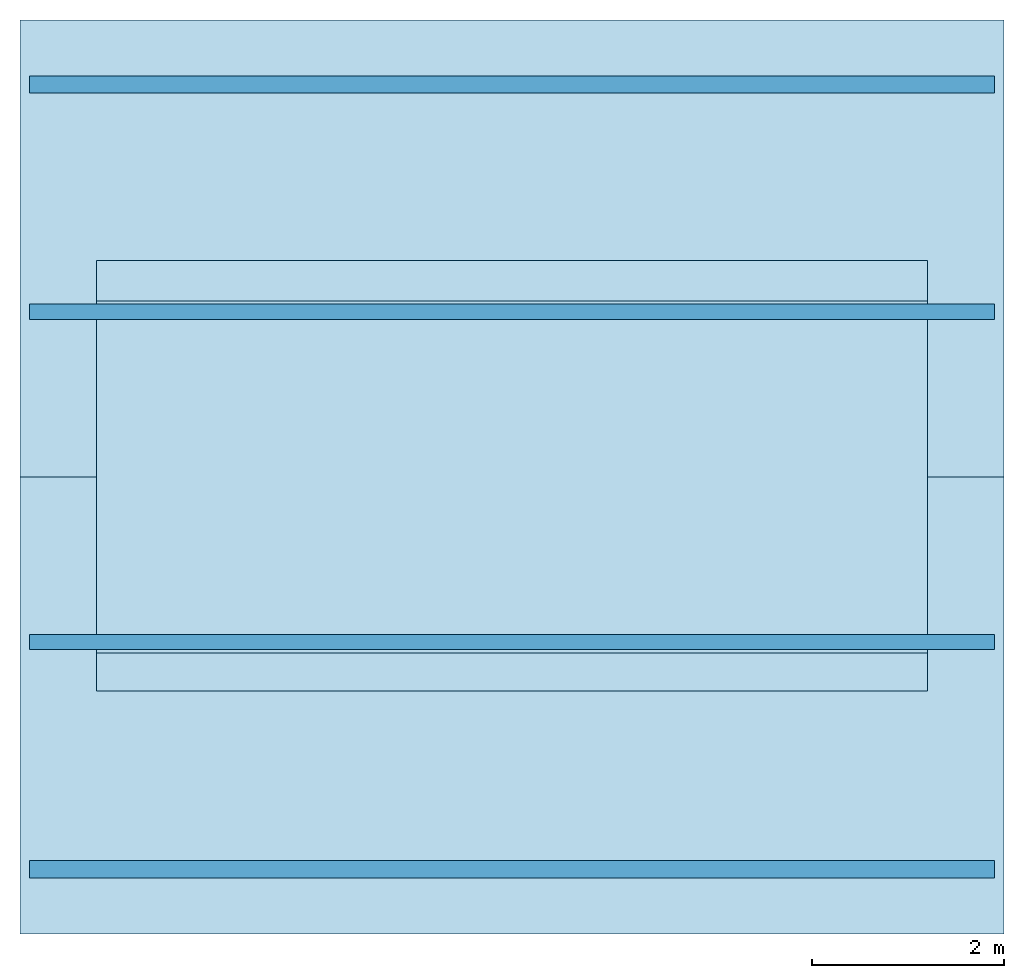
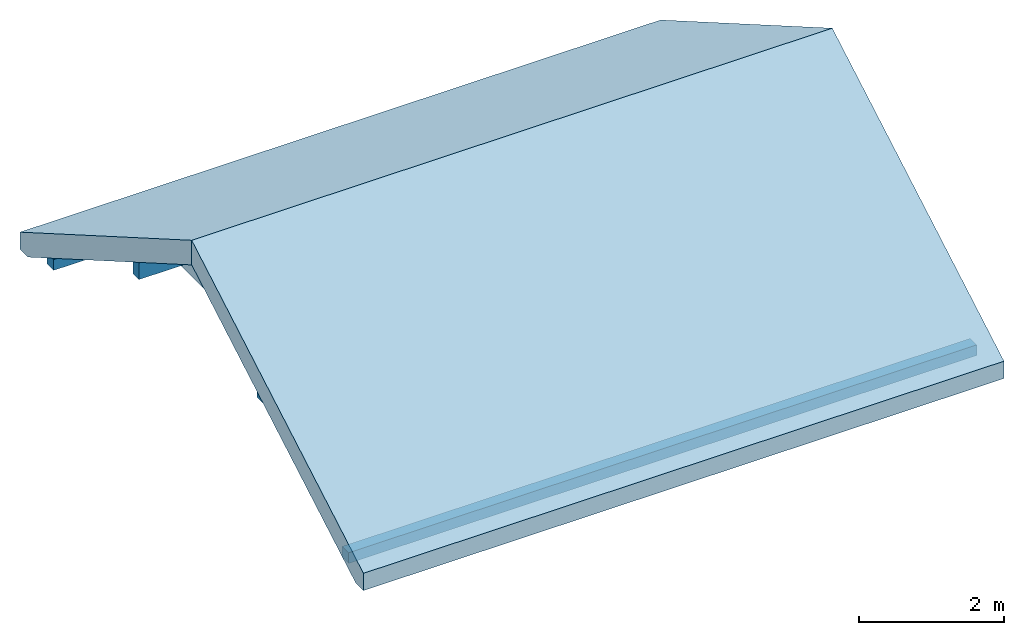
# One storey: 4 beams, 3 slabs.
"""IFC2X3 building model written with IfcOpenShell, lengths in millimetres."""

from ifc_helpers import new_model, entity, si_unit, converted_unit, derived_unit, money_unit, direction, frame, origin_with_axes, place, context, subcontext, project, spatial, faceted_brep, material, material_list, type_object, element, save


model = new_model("IFC2X3")

# Units and contexts
model_context = context("Model", 3, precision=0.01, world=origin_with_axes(), true_north=direction((0.0, 1.0)))
body_context = subcontext(model_context, "Body", "Model", "MODEL_VIEW")
ifc_project = project(units=[si_unit("LENGTHUNIT", "METRE", prefix="MILLI"), si_unit("AREAUNIT", "SQUARE_METRE"), si_unit("VOLUMEUNIT", "CUBIC_METRE"), converted_unit("PLANEANGLEUNIT", "DEGREE", entity("IfcPlaneAngleMeasure", 0.0174532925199), si_unit("PLANEANGLEUNIT", "RADIAN"), dimensions=[0, 0, 0, 0, 0, 0, 0]), si_unit("SOLIDANGLEUNIT", "STERADIAN"), money_unit("USD"), converted_unit("TIMEUNIT", "Year", entity("IfcTimeMeasure", 31556926.0), si_unit("TIMEUNIT", "SECOND"), dimensions=[0, 0, 1, 0, 0, 0, 0]), si_unit("MASSUNIT", "GRAM", prefix="KILO"), si_unit("THERMODYNAMICTEMPERATUREUNIT", "DEGREE_CELSIUS"), si_unit("LUMINOUSINTENSITYUNIT", "LUMEN"), si_unit("ENERGYUNIT", "JOULE", prefix="MEGA"), derived_unit("THERMALCONDUCTANCEUNIT", [(si_unit("POWERUNIT", "WATT"), 1), (si_unit("LENGTHUNIT", "METRE"), -1), (si_unit("THERMODYNAMICTEMPERATUREUNIT", "KELVIN"), -1)]), derived_unit("SPECIFICHEATCAPACITYUNIT", [(si_unit("ENERGYUNIT", "JOULE"), 1), (si_unit("MASSUNIT", "GRAM", prefix="KILO"), -1), (si_unit("THERMODYNAMICTEMPERATUREUNIT", "KELVIN"), -1)]), derived_unit("MASSDENSITYUNIT", [(si_unit("MASSUNIT", "GRAM", prefix="KILO"), 1), (si_unit("VOLUMEUNIT", "CUBIC_METRE"), -1)])], contexts=[model_context])

# Site, building, storey
site_placement = place(None, origin_with_axes())
site = spatial("IfcSite", under=ifc_project, at=site_placement, Name="Lokalizacja", CompositionType="ELEMENT")
building_placement = place(site_placement, origin_with_axes())
building = spatial("IfcBuilding", under=site, at=building_placement, Name="Budynek", CompositionType="ELEMENT")
storey_placement = place(building_placement, frame((0.0, 0.0, 5726.0), z_axis=(0.0, 0.0, 1.0), x_axis=(1.0, 0.0, 0.0)))
storey = spatial("IfcBuildingStorey", under=building, at=storey_placement, Name="DACH", CompositionType="ELEMENT", Elevation=5726.0)

# Beams
ifc_material_1 = material(Name="Drewno konstrukcyjne_elementy_konstrukcyjne")
beam_type_1 = type_object("IfcBeamType", Name="Drewno konstrukcyjne_elementy_konstrukcyjne 180 x 180", PredefinedType="NOTDEFINED")
beam_1_placement = place(storey_placement, frame((-695.0, 115.000000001, -1310.68246767), z_axis=(0.0, 0.0, 1.0), x_axis=(0.0, -1.0, 0.0)))
element("IfcBeam", 1, at=beam_1_placement, inside=storey, type_object=beam_type_1, material=ifc_material_1, Name="Platew_stopowa1", context=body_context, shape_type="Brep", body=[
    faceted_brep([(-90.0, 0.0, -180.0), (-90.0, 10030.0, -180.0), (90.0, 10030.0, -180.0), (90.0, 0.0, -180.0), (-90.0, 0.0, 0.0), (-90.0, 10030.0, 0.0), (90.0, 10030.0, 0.0), (90.0, 0.0, 0.0)], [[[0, 1, 2, 3]], [[4, 5, 1, 0]], [[2, 1, 5, 6]], [[3, 2, 6, 7]], [[4, 0, 3, 7]], [[7, 6, 5, 4]]]),
])
beam_2_placement = place(storey_placement, frame((-695.0, -8045.00031537, -1310.68246767), z_axis=(0.0, 0.0, 1.0), x_axis=(0.0, -1.0, 0.0)))
element("IfcBeam", 2, at=beam_2_placement, inside=storey, type_object=beam_type_1, material=ifc_material_1, Name="Platew_stopowa1", context=body_context, shape_type="Brep", body=[
    faceted_brep([(90.0, 0.0, 0.0), (90.0, 10030.0, 0.0), (-90.0, 10030.0, 0.0), (-90.0, 0.0, 0.0), (90.0, 0.0, -180.0), (90.0, 10030.0, -180.0), (-90.0, 10030.0, -180.0), (-90.0, 0.0, -180.0)], [[[0, 1, 2, 3]], [[4, 5, 1, 0]], [[2, 1, 5, 6]], [[3, 2, 6, 7]], [[4, 0, 3, 7]], [[7, 6, 5, 4]]]),
])
beam_type_2 = type_object("IfcBeamType", Name="Drewno konstrukcyjne_elementy_konstrukcyjne 160 x 280", PredefinedType="NOTDEFINED")
beam_3_placement = place(storey_placement, frame((-695.0, -5681.00236524, 60.0000000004), z_axis=(0.0, 0.0, 1.0), x_axis=(0.0, -1.0, 0.0)))
element("IfcBeam", 3, at=beam_3_placement, inside=storey, type_object=beam_type_2, material=ifc_material_1, Name="Platew2", context=body_context, shape_type="Brep", body=[
    faceted_brep([(80.0, 0.0, 0.0), (80.0, 10030.0, 0.0), (-80.0, 10030.0, 0.0), (-80.0, 0.0, 0.0), (80.0, 0.0, -280.0), (80.0, 10030.0, -280.0), (-80.0, 10030.0, -280.0), (-80.0, 0.0, -280.0)], [[[0, 1, 2, 3]], [[4, 5, 1, 0]], [[2, 1, 5, 6]], [[3, 2, 6, 7]], [[4, 0, 3, 7]], [[7, 6, 5, 4]]]),
])
beam_4_placement = place(storey_placement, frame((-695.0, -2249.00015984, 60.0000000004), z_axis=(0.0, 0.0, 1.0), x_axis=(0.0, -1.0, 0.0)))
element("IfcBeam", 4, at=beam_4_placement, inside=storey, type_object=beam_type_2, material=ifc_material_1, Name="Platew2", context=body_context, shape_type="Brep", body=[
    faceted_brep([(-80.0, 0.0, -280.0), (-80.0, 10030.0, -280.0), (80.0, 10030.0, -280.0), (80.0, 0.0, -280.0), (-80.0, 0.0, 0.0), (-80.0, 10030.0, 0.0), (80.0, 10030.0, 0.0), (80.0, 0.0, 0.0)], [[[0, 1, 2, 3]], [[4, 5, 1, 0]], [[2, 1, 5, 6]], [[3, 2, 6, 7]], [[4, 0, 3, 7]], [[7, 6, 5, 4]]]),
])

# Slabs
ifc_material_2 = material(Name="Beton")
ifc_material_3 = material(Name="Drewno montażowe")
ifc_material_4 = material(Name="Drewno konstrukcyjne dach")
ifc_material_5 = material(Name="Płyta OSB")
ifc_material_6 = material(Name="Płyta GK")
ifc_material_list_1 = material_list([ifc_material_2, ifc_material_3, ifc_material_3, ifc_material_4, ifc_material_5, ifc_material_6])
slab_type_1 = type_object("IfcSlabType", Name="041- _dan_Panel 394", PredefinedType="ROOF")
slab_1_placement = place(storey_placement, frame((-795.0, 785.0, -1725.21996094), z_axis=(0.0, 0.0, 1.0), x_axis=(1.0, 0.0, 0.0)))
element("IfcSlab", 5, at=slab_1_placement, inside=storey, type_object=slab_type_1, material=ifc_material_list_1, Name="DA1", PredefinedType="ROOF", context=body_context, shape_type="Brep", body=[
    faceted_brep([(0.0, -4750.00126254, 3197.3665197), (10230.0, -4750.00015768, 3197.36588181), (10230.0, 0.0, 454.952012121), (0.0, 0.0, 454.952012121), (-6.92037538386e-08, -4750.0012626, 3116.53748205), (10230.0, -4750.00015772, 3116.53684415), (10230.0, -6.93116675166e-08, 374.122974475), (-6.92028656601e-08, -6.93107793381e-08, 374.122974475)], [[[0, 1, 2, 3]], [[1, 0, 4, 5]], [[2, 1, 5, 6]], [[3, 2, 6, 7]], [[0, 3, 7, 4]], [[6, 5, 4, 7]]]),
    faceted_brep([(10230.0, -4750.00015772, 3116.53684415), (-6.92037538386e-08, -4750.0012626, 3116.53748205), (-1.08749009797e-07, -4750.00126264, 3070.34946053), (10230.0, -4750.00015775, 3070.34882263), (10230.0, -6.93116675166e-08, 374.122974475), (-6.92028656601e-08, -6.93107793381e-08, 374.122974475), (-1.08748121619e-07, -1.08918207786e-07, 327.934952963), (10230.0, -1.08919095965e-07, 327.934952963)], [[[0, 1, 2, 3]], [[1, 0, 4, 5]], [[1, 5, 6, 2]], [[7, 3, 2, 6]], [[4, 0, 3, 7]], [[5, 4, 7, 6]]]),
    faceted_brep([(10230.0, -4750.00015775, 3070.34882263), (-1.08749009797e-07, -4750.00126264, 3070.34946053), (-1.38407063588e-07, -4750.00126266, 3035.7084444), (10230.0, -4750.00015776, 3035.70780648), (10230.0, -1.08919095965e-07, 327.934952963), (-1.08748121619e-07, -1.08917319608e-07, 327.934952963), (-1.38407063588e-07, -1.38623335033e-07, 293.293936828), (10230.0, -1.38623335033e-07, 293.293936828)], [[[0, 1, 2, 3]], [[1, 0, 4, 5]], [[1, 5, 6, 2]], [[7, 3, 2, 6]], [[4, 0, 3, 7]], [[5, 4, 7, 6]]]),
    faceted_brep([(10230.0000001, -214.83335935, 163.293916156), (10230.0, -2.50099940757e-07, 163.293916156), (10230.0, -1.38623335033e-07, 293.293936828), (10230.0, -4750.00015776, 3035.70780648), (10230.0000001, -4750.00015789, 2781.67368811), (-2.49709142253e-07, -2.50099940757e-07, 163.293916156), (-3.55903306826e-07, -214.83335935, 163.293916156), (-1.38407063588e-07, -1.38623335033e-07, 293.293936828), (-1.38407063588e-07, -4750.00126266, 3035.7084444), (-3.55903306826e-07, -4750.00126285, 2781.67432606)], [[[0, 1, 2, 3, 4]], [[5, 1, 0, 6]], [[1, 5, 7, 2]], [[8, 3, 2, 7]], [[3, 8, 9, 4]], [[6, 0, 4, 9]], [[5, 6, 9, 8, 7]]]),
    faceted_brep([(895.0, -771.999999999, 459.570814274), (895.0, -772.000000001, 484.974226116), (2650.0, -771.999999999, 484.974226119), (2650.0, -771.999999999, 459.570814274), (895.0, -784.999999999, 492.479779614), (895.0, -784.999999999, 467.076367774), (795.0, -785.00001043, 492.479785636), (795.0, -2501.01233116, 1483.21996094), (9435.0, -2501.01233116, 1483.21996094), (9435.0, -772.000000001, 484.974226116), (5290.0, -771.999999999, 484.974226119), (5290.0, -759.999999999, 478.046022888), (5110.0, -759.999999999, 478.046022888), (5110.0, -771.999999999, 484.974226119), (2830.0, -771.999999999, 484.974226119), (2830.0, -759.999999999, 478.046022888), (2650.0, -759.999999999, 478.046022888), (2650.0, -759.999999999, 452.642611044), (2830.0, -759.999999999, 452.642611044), (2830.0, -771.999999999, 459.570814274), (5110.0, -771.999999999, 459.570814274), (5110.0, -759.999999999, 452.642611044), (5290.0, -759.999999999, 452.642611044), (5290.0, -771.999999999, 459.570814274), (9435.00000006, -771.999999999, 459.570814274), (9435.00000006, -2545.01233115, 1483.21996094), (794.999999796, -2545.01233115, 1483.21996094), (795.0, -785.00001043, 467.076373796)], [[[0, 1, 2, 3]], [[4, 1, 0, 5]], [[4, 6, 7, 8, 9, 10, 11, 12, 13, 14, 15, 16, 2, 1]], [[17, 3, 2, 16]], [[5, 0, 3, 17, 18, 19, 20, 21, 22, 23, 24, 25, 26, 27]], [[6, 4, 5, 27]], [[6, 27, 26, 7]], [[26, 25, 8, 7]], [[25, 24, 9, 8]], [[10, 9, 24, 23]], [[10, 23, 22, 11]], [[11, 22, 21, 12]], [[21, 20, 13, 12]], [[20, 19, 14, 13]], [[14, 19, 18, 15]], [[15, 18, 17, 16]]]),
    faceted_brep([(2638.0, -784.999999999, 453.219960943), (794.999999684, -784.999999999, 453.219960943), (794.999999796, -784.999999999, 467.076367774), (2638.0, -784.999999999, 467.076367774), (5302.0, -784.999999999, 453.219960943), (9435.00000009, -784.999999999, 453.219960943), (9435.00000009, -2548.2277221, 1471.21996094), (5302.0, -2548.2277221, 1471.21996094), (5301.99999947, -2569.01233179, 1483.21996094), (5097.99999702, -2569.01233179, 1483.21996094), (5097.99999562, -2548.2277221, 1471.21996094), (2842.0, -2548.2277221, 1471.21996094), (2841.99999991, -2569.01233179, 1483.21996094), (2637.9999993, -2569.01233179, 1483.21996094), (2637.99999995, -2548.2277221, 1471.21996094), (794.999999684, -2548.2277221, 1471.21996094), (2638.0, -771.999999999, 445.714407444), (2650.0, -771.999999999, 445.714407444), (2650.0, -759.999999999, 438.786204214), (2830.0, -759.999999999, 438.786204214), (2830.0, -771.999999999, 445.714407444), (2842.0, -771.999999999, 445.714407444), (2842.0, -784.999999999, 453.219960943), (5098.0, -784.999999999, 453.219960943), (5098.0, -771.999999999, 445.714407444), (5110.0, -771.999999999, 445.714407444), (5110.0, -759.999999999, 438.786204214), (5290.0, -759.999999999, 438.786204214), (5290.0, -771.999999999, 445.714407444), (5302.0, -771.999999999, 445.714407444), (794.999999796, -2524.22772146, 1471.21996094), (5302.0, -2524.22772146, 1471.21996094), (9435.00000006, -2524.22772146, 1471.21996094), (9435.00000006, -784.999999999, 467.076367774), (5302.0, -784.999999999, 467.076367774), (5302.0, -771.999999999, 459.570814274), (5290.0, -771.999999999, 459.570814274), (5290.0, -759.999999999, 452.642611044), (5110.0, -759.999999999, 452.642611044), (5110.0, -771.999999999, 459.570814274), (5098.0, -771.999999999, 459.570814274), (5098.0, -784.999999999, 467.076367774), (2842.0, -784.999999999, 467.076367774), (2842.0, -771.999999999, 459.570814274), (2830.0, -771.999999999, 459.570814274), (2830.0, -759.999999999, 452.642611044), (2650.0, -759.999999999, 452.642611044), (2650.0, -771.999999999, 459.570814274), (2638.0, -771.999999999, 459.570814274), (2637.99999997, -2524.22772146, 1471.21996094), (2637.99999925, -2545.01233115, 1483.21996094), (2841.99999989, -2545.01233115, 1483.21996094), (2842.0, -2524.22772146, 1471.21996094), (5097.99999559, -2524.22772146, 1471.21996094), (5097.999997, -2545.01233115, 1483.21996094), (5301.99999946, -2545.01233115, 1483.21996094)], [[[0, 1, 2, 3]], [[4, 5, 6, 7, 8, 9, 10, 11, 12, 13, 14, 15, 1, 0, 16, 17, 18, 19, 20, 21, 22, 23, 24, 25, 26, 27, 28, 29]], [[15, 30, 2, 1]], [[31, 32, 33, 34, 35, 36, 37, 38, 39, 40, 41, 42, 43, 44, 45, 46, 47, 48, 3, 2, 30, 49, 50, 51, 52, 53, 54, 55]], [[16, 0, 3, 48]], [[34, 33, 5, 4]], [[6, 5, 33, 32]], [[7, 6, 32, 31]], [[8, 7, 31, 55]], [[54, 9, 8, 55]], [[10, 9, 54, 53]], [[11, 10, 53, 52]], [[12, 11, 52, 51]], [[50, 13, 12, 51]], [[14, 13, 50, 49]], [[49, 30, 15, 14]], [[47, 17, 16, 48]], [[18, 17, 47, 46]], [[45, 19, 18, 46]], [[44, 20, 19, 45]], [[20, 44, 43, 21]], [[42, 22, 21, 43]], [[23, 22, 42, 41]], [[24, 23, 41, 40]], [[39, 25, 24, 40]], [[26, 25, 39, 38]], [[37, 27, 26, 38]], [[36, 28, 27, 37]], [[28, 36, 35, 29]], [[34, 4, 29, 35]]]),
])
slab_2_placement = place(storey_placement, frame((9435.0, -8715.00031537, -1725.21996094), z_axis=(0.0, 0.0, 1.0), x_axis=(-1.0, 0.0, 0.0)))
element("IfcSlab", 6, at=slab_2_placement, inside=storey, type_object=slab_type_1, material=ifc_material_list_1, Name="DA1", PredefinedType="ROOF", context=body_context, shape_type="Brep", body=[
    faceted_brep([(0.0, 0.0, 454.952012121), (0.0, -4750.00015244, 3197.36587878), (10230.0, -4750.00121951, 3197.36649486), (10230.0, 0.0, 454.952012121), (-6.9206862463e-08, -1.92716953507e-08, 374.122974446), (-6.92050861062e-08, -4750.0001525, 3116.53684113), (10230.0, -4750.00121957, 3116.53745721), (10230.0, -1.92699189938e-08, 374.122974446)], [[[0, 1, 2, 3]], [[1, 0, 4, 5]], [[2, 1, 5, 6]], [[3, 2, 6, 7]], [[0, 3, 7, 4]], [[6, 5, 4, 7]]]),
    faceted_brep([(-6.92050861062e-08, -4750.0001525, 3116.53684113), (-6.9206862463e-08, -1.92716953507e-08, 374.122974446), (-1.08752118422e-07, -3.02833313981e-08, 327.934952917), (-1.08750342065e-07, -4750.00015254, 3070.34881962), (10230.0, -4750.00121957, 3116.53745721), (10230.0, -1.92699189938e-08, 374.122974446), (10230.0, -3.02833313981e-08, 327.934952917), (10230.0, -4750.00121961, 3070.34943569)], [[[0, 1, 2, 3]], [[1, 0, 4, 5]], [[1, 5, 6, 2]], [[7, 3, 2, 6]], [[4, 0, 3, 7]], [[5, 4, 7, 6]]]),
    faceted_brep([(-1.08750342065e-07, -4750.00015254, 3070.34881962), (-1.08752118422e-07, -3.02833313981e-08, 327.934952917), (-1.38410172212e-07, -3.85433907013e-08, 293.293936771), (-1.38408395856e-07, -4750.00015256, 3035.70780348), (10230.0, -4750.00121961, 3070.34943569), (10230.0, -3.02833313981e-08, 327.934952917), (10230.0, -3.85433907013e-08, 293.293936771), (10230.0, -4750.00121963, 3035.70841955)], [[[0, 1, 2, 3]], [[1, 0, 4, 5]], [[1, 5, 6, 2]], [[7, 3, 2, 6]], [[4, 0, 3, 7]], [[5, 4, 7, 6]]]),
    faceted_brep([(-2.49713139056e-07, -6.9539041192e-08, 163.293916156), (-3.55907303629e-07, -214.83335935, 163.293916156), (-3.55905527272e-07, -4750.00015276, 2781.67368515), (-1.38408395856e-07, -4750.00015256, 3035.70780348), (-1.38410172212e-07, -3.85433907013e-08, 293.293936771), (10230.0000001, -214.83335935, 163.293916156), (10230.0, -6.95372648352e-08, 163.293916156), (10230.0000001, -4750.00121982, 2781.67430122), (10230.0, -4750.00121963, 3035.70841955), (10230.0, -3.85416143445e-08, 293.293936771)], [[[0, 1, 2, 3, 4]], [[5, 1, 0, 6]], [[1, 5, 7, 2]], [[8, 3, 2, 7]], [[4, 3, 8, 9]], [[6, 0, 4, 9]], [[5, 6, 9, 8, 7]]]),
    faceted_brep([(9335.0, -785.003048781, 492.481539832), (9335.0, -772.003025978, 484.975973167), (5120.0, -772.003025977, 484.975973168), (5120.0, -760.003025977, 478.04744641), (4940.0, -760.003025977, 478.04744641), (4940.0, -772.003025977, 484.975973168), (795.0, -772.003025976, 484.97597317), (795.0, -2524.27038862, 1496.64800669), (9435.0, -2524.27038862, 1496.64800669), (9435.0, -785.003059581, 492.481546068), (9335.0, -785.003048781, 467.078127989), (9335.0, -772.003025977, 459.572561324), (5120.0, -772.003025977, 459.572561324), (5120.0, -760.003025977, 452.643465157), (4940.0, -760.003025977, 452.643465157), (4940.0, -772.003025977, 459.572561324), (795.0, -772.003025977, 459.572561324), (795.0, -2539.09801829, 1479.80533082), (795.0, -2539.09801829, 1483.21996094), (795.0, -2524.27038862, 1483.21996094), (9435.0, -2524.27038862, 1483.21996094), (9435.0, -785.003059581, 467.078134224), (9435.0, -2539.09801829, 1483.21996094), (9435.0, -2539.09801829, 1479.80533082)], [[[0, 1, 2, 3, 4, 5, 6, 7, 8, 9]], [[1, 0, 10, 11]], [[1, 11, 12, 2]], [[3, 2, 12, 13]], [[3, 13, 14, 4]], [[5, 4, 14, 15]], [[15, 16, 6, 5]], [[17, 18, 19, 7, 6, 16]], [[8, 7, 19, 20]], [[21, 9, 8, 20, 22, 23]], [[0, 9, 21, 10]], [[10, 21, 23, 17, 16, 15, 14, 13, 12, 11]], [[23, 22, 18, 17]], [[18, 22, 20, 19]]]),
    faceted_brep([(795.0, -2524.27038862, 1471.21996094), (795.0, -2539.09801829, 1471.21996094), (4927.99999962, -2539.09801829, 1471.21996094), (4927.99999962, -2524.27038862, 1471.21996094), (795.0, -2539.09801829, 1465.94892399), (795.0, -2524.27038862, 1471.24459484), (795.0, -785.003025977, 467.078114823), (795.0, -785.003025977, 453.221707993), (4927.99999981, -2539.09801829, 1479.80533082), (9435.0, -2539.09801829, 1465.94892399), (9435.0, -2539.09801829, 1471.21996094), (5132.0, -2539.09801829, 1471.21996094), (5131.99999952, -2539.09801829, 1479.80533082), (4927.99999962, -2524.27038862, 1471.24459484), (4928.0, -785.003025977, 467.078114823), (5132.0, -2524.27038862, 1471.24459484), (9435.0, -2524.27038862, 1471.24459484), (9435.0, -785.003025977, 467.078114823), (5132.0, -785.003025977, 467.078114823), (5132.0, -772.003025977, 459.572561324), (5120.0, -772.003025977, 459.572561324), (5120.0, -760.003025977, 452.643465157), (4940.0, -760.003025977, 452.643465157), (4940.0, -772.003025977, 459.572561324), (4928.0, -772.003025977, 459.572561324), (4928.0, -785.003025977, 453.221707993), (4928.0, -772.003025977, 445.716154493), (4940.0, -772.003025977, 445.716154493), (4940.0, -760.003025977, 438.78674774), (5120.0, -760.003025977, 438.78674774), (5120.0, -772.003025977, 445.716154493), (5132.0, -772.003025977, 445.716154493), (5132.0, -785.003025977, 453.221707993), (9435.0, -785.003025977, 453.221707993), (9435.0, -2524.27038862, 1471.21996094), (5132.0, -2524.27038862, 1471.21996094)], [[[0, 1, 2, 3]], [[4, 1, 0, 5, 6, 7]], [[8, 2, 1, 4, 9, 10, 11, 12]], [[3, 2, 8, 13]], [[13, 5, 0, 3]], [[14, 6, 5, 13, 8, 12, 15, 16, 17, 18, 19, 20, 21, 22, 23, 24]], [[25, 7, 6, 14]], [[9, 4, 7, 25, 26, 27, 28, 29, 30, 31, 32, 33]], [[16, 34, 10, 9, 33, 17]], [[11, 10, 34, 35]], [[15, 12, 11, 35]], [[35, 34, 16, 15]], [[18, 17, 33, 32]], [[32, 31, 19, 18]], [[30, 20, 19, 31]], [[30, 29, 21, 20]], [[28, 22, 21, 29]], [[28, 27, 23, 22]], [[23, 27, 26, 24]], [[26, 25, 14, 24]]]),
])
ifc_material_7 = material(Name="Drewno konstrukcyjne")
ifc_material_list_2 = material_list([ifc_material_7, ifc_material_5, ifc_material_6])
slab_type_2 = type_object("IfcSlabType", Name="033- _dan_Strop_3 254", PredefinedType="FLOOR")
slab_3_placement = place(storey_placement, frame((4.52938083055e-05, -6190.72992674, 0.0), z_axis=(0.0, 0.0, 1.0), x_axis=(1.0, 0.0, 0.0)))
element("IfcSlab", 7, at=slab_3_placement, inside=storey, type_object=slab_type_2, material=ifc_material_list_2, Name="P1", PredefinedType="FLOOR", context=body_context, shape_type="Brep", body=[
    faceted_brep([(0.0, 395.898237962, 0.0), (8640.00007702, 395.898237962, 0.0), (8640.00007702, 429.727561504, 0.0), (0.0, 429.727561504, 0.0), (8640.00007702, 14.8470602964, -220.0), (0.0, 14.8470602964, -220.0), (8640.00007702, 429.727561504, -220.0), (0.0, 429.727561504, -220.0)], [[[0, 1, 2, 3]], [[4, 1, 0, 5]], [[1, 4, 6, 2]], [[7, 3, 2, 6]], [[5, 0, 3, 7]], [[4, 5, 7, 6]]]),
    faceted_brep([(8640.00007702, 589.727561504, -220.0), (8640.00007702, 3861.7297669, -220.0), (8640.00007702, 3861.7297669, 0.0), (8640.00007702, 589.727561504, 0.0), (0.0, 589.727561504, -220.0), (0.0, 3861.7297669, -220.0), (0.0, 3861.7297669, 0.0), (0.0, 589.727561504, 0.0)], [[[0, 1, 2, 3]], [[4, 5, 1, 0]], [[5, 6, 2, 1]], [[3, 2, 6, 7]], [[4, 0, 3, 7]], [[7, 6, 5, 4]]]),
    faceted_brep([(0.0, 4436.61247782, -220.0), (8640.00007702, 4436.61247782, -220.0), (8640.00007702, 4021.7297669, -220.0), (0.0, 4021.7297669, -220.0), (8640.00007702, 4055.56130016, 0.0), (0.0, 4055.56130016, 0.0), (8640.00007702, 4021.7297669, 0.0), (0.0, 4021.7297669, 0.0)], [[[0, 1, 2, 3]], [[4, 1, 0, 5]], [[1, 4, 6, 2]], [[3, 2, 6, 7]], [[5, 0, 3, 7]], [[4, 5, 7, 6]]]),
    faceted_brep([(0.0, 4474.71759559, -242.0), (8640.00007702, 4474.71759559, -242.0), (8640.00007702, 0.0, -242.0), (0.0, 0.0, -242.0), (8640.00007702, 4436.61247782, -220.0), (0.0, 4436.61247782, -220.0), (8640.00007702, 14.8470602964, -220.0), (8640.00007702, 0.0, -228.571954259), (0.0, 0.0, -228.571954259), (0.0, 14.8470602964, -220.0)], [[[0, 1, 2, 3]], [[4, 1, 0, 5]], [[1, 4, 6, 7, 2]], [[7, 8, 3, 2]], [[5, 0, 3, 8, 9]], [[4, 5, 9, 6]], [[7, 6, 9, 8]]]),
    faceted_brep([(0.0, 4451.50220537, -254.000000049), (1842.99995467, 4451.50220535, -254.000000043), (1842.99995447, 4185.58822674, -254.0), (1854.99995471, 4185.58822674, -254.0), (2927.78744467, 4185.58822674, -254.0), (2927.78744467, 2144.20192964, -254.0), (0.0, 2144.20192964, -254.0), (1842.99995395, 4430.71759559, -242.0), (0.0, 4430.71759559, -242.0), (1842.99995447, 4185.58822674, -242.0), (1854.99995471, 4185.58822674, -242.0), (2927.78744467, 4185.58822674, -242.0), (2927.78744467, 2144.20192964, -242.0), (0.0, 2144.20192964, -242.0)], [[[0, 1, 2, 3, 4, 5, 6]], [[7, 1, 0, 8]], [[1, 7, 9, 2]], [[9, 10, 3, 2]], [[3, 10, 11, 4]], [[5, 4, 11, 12]], [[6, 5, 12, 13]], [[8, 0, 6, 13]], [[7, 8, 13, 12, 11, 10, 9]]]),
    faceted_brep([(4506.99995483, 20.7419425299, -242.0), (8640.00007702, 20.7419425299, -242.0), (8640.00007702, 2173.73085258, -242.0), (4506.99995471, 2173.73085258, -242.0), (8640.00007702, 0.0, -253.975366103), (4506.99995509, 0.0, -253.975366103), (8640.00007702, 0.0, -254.0), (8640.00007702, 2173.73085258, -254.0), (4506.99995471, 2173.73085258, -254.0), (4506.99995509, 0.0, -254.0)], [[[0, 1, 2, 3]], [[4, 1, 0, 5]], [[1, 4, 6, 7, 2]], [[8, 3, 2, 7]], [[5, 0, 3, 8, 9]], [[4, 5, 9, 6]], [[9, 8, 7, 6]]]),
    faceted_brep([(0.0, 20.7419425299, -242.0), (4302.99995538, 20.7419425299, -242.0), (4302.99995471, 943.730852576, -242.0), (2939.78744467, 943.730852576, -242.0), (2927.78744467, 943.730852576, -242.0), (2927.78744467, 1940.20192964, -242.0), (0.0, 1940.20192964, -242.0), (4302.99995471, 0.0, -253.975366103), (0.0, 0.0, -253.975366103), (4302.99995471, 0.0, -254.0), (4302.99995471, 943.730852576, -254.0), (2939.78744467, 943.730852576, -254.0), (2927.78744467, 943.730852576, -254.0), (2927.78744467, 1940.20192964, -254.0), (0.0, 1940.20192964, -254.0), (0.0, 0.0, -254.0)], [[[0, 1, 2, 3, 4, 5, 6]], [[7, 1, 0, 8]], [[1, 7, 9, 10, 2]], [[11, 3, 2, 10]], [[4, 3, 11, 12]], [[12, 13, 5, 4]], [[6, 5, 13, 14]], [[8, 0, 6, 14, 15]], [[7, 8, 15, 9]], [[12, 11, 10, 9, 15, 14, 13]]]),
    faceted_brep([(2046.99995471, 4451.50220535, -254.000000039), (4302.99995029, 4451.50220537, -254.00000005), (4302.99995471, 1047.73085258, -254.0), (3031.78744467, 1047.73085258, -254.0), (3031.78744467, 4289.58822674, -254.0), (3019.78744467, 4289.58822674, -254.0), (2046.99995471, 4289.58822674, -254.0), (4302.99995171, 4430.71759559, -242.0), (2046.9999546, 4430.71759559, -242.0), (4302.99995471, 1047.73085258, -242.0), (3031.78744467, 1047.73085258, -242.0), (3031.78744467, 4289.58822674, -242.0), (3019.78744467, 4289.58822674, -242.0), (2046.99995471, 4289.58822674, -242.0)], [[[0, 1, 2, 3, 4, 5, 6]], [[7, 1, 0, 8]], [[1, 7, 9, 2]], [[3, 2, 9, 10]], [[4, 3, 10, 11]], [[11, 12, 5, 4]], [[6, 5, 12, 13]], [[8, 0, 6, 13]], [[7, 8, 13, 12, 11, 10, 9]]]),
    faceted_brep([(4506.99995471, 4451.50220537, -254.000000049), (8640.00007702, 4451.50220537, -254.000000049), (8640.00007702, 2277.73085258, -254.0), (4506.99995471, 2277.73085258, -254.0), (8640.00007702, 4430.71759559, -242.0), (4506.99995417, 4430.71759559, -242.0), (8640.00007702, 2277.73085258, -242.0), (4506.99995471, 2277.73085258, -242.0)], [[[0, 1, 2, 3]], [[4, 1, 0, 5]], [[1, 4, 6, 2]], [[3, 2, 6, 7]], [[5, 0, 3, 7]], [[4, 5, 7, 6]]]),
])

save(model, "model.ifc")
